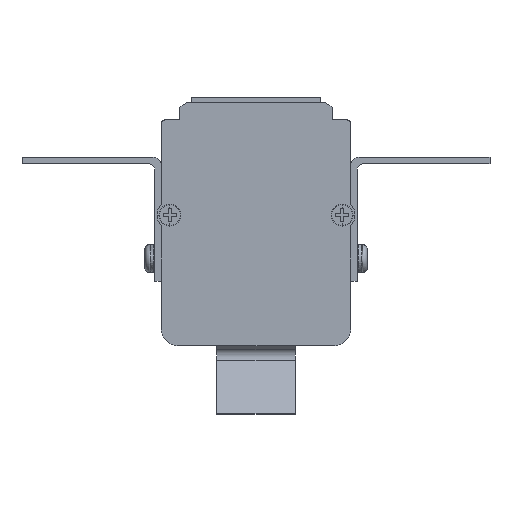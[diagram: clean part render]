
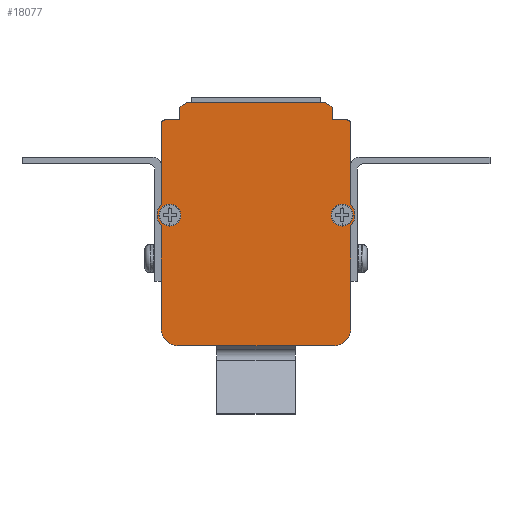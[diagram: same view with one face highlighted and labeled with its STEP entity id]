
A CAD part, front view. The second image highlights one B-rep face of the part: STEP entity #18077.
In plain terms, the highlighted planar face has unit normal (0, -1, 0).
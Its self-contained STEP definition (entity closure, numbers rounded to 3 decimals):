
#505=FACE_BOUND('',#4718,.T.);
#506=FACE_BOUND('',#4719,.T.);
#2286=CIRCLE('',#20143,2.51);
#2287=CIRCLE('',#20145,2.51);
#2290=CIRCLE('',#20149,2.51);
#2291=CIRCLE('',#20151,2.51);
#2294=CIRCLE('',#20155,1.004);
#2296=CIRCLE('',#20159,3.509);
#2298=CIRCLE('',#20163,3.952);
#2300=CIRCLE('',#20167,3.952);
#2302=CIRCLE('',#20171,3.509);
#2304=CIRCLE('',#20175,1.004);
#3299=FACE_OUTER_BOUND('',#4717,.T.);
#4717=EDGE_LOOP('',(#16632,#16633,#16634,#16635,#16636,#16637,#16638,#16639,
#16640,#16641,#16642,#16643,#16644,#16645,#16646,#16647,#16648,#16649,#16650));
#4718=EDGE_LOOP('',(#16651,#16652));
#4719=EDGE_LOOP('',(#16653,#16654));
#6009=LINE('',#31493,#7357);
#6013=LINE('',#31505,#7361);
#6017=LINE('',#31517,#7365);
#6021=LINE('',#31529,#7369);
#6025=LINE('',#31541,#7373);
#6029=LINE('',#31553,#7377);
#6032=LINE('',#31559,#7380);
#6035=LINE('',#31565,#7383);
#6038=LINE('',#31571,#7386);
#6041=LINE('',#31577,#7389);
#6044=LINE('',#31583,#7392);
#6047=LINE('',#31589,#7395);
#6050=LINE('',#31593,#7398);
#7357=VECTOR('',#25543,304.8);
#7361=VECTOR('',#25555,304.8);
#7365=VECTOR('',#25567,304.8);
#7369=VECTOR('',#25579,304.8);
#7373=VECTOR('',#25591,304.8);
#7377=VECTOR('',#25603,304.8);
#7380=VECTOR('',#25608,304.8);
#7383=VECTOR('',#25613,304.8);
#7386=VECTOR('',#25618,304.8);
#7389=VECTOR('',#25623,304.8);
#7392=VECTOR('',#25628,304.8);
#7395=VECTOR('',#25633,304.8);
#7398=VECTOR('',#25638,304.8);
#9021=VERTEX_POINT('',#31458);
#9023=VERTEX_POINT('',#31462);
#9025=VERTEX_POINT('',#31470);
#9027=VERTEX_POINT('',#31474);
#9030=VERTEX_POINT('',#31484);
#9031=VERTEX_POINT('',#31486);
#9033=VERTEX_POINT('',#31492);
#9035=VERTEX_POINT('',#31498);
#9037=VERTEX_POINT('',#31504);
#9039=VERTEX_POINT('',#31510);
#9041=VERTEX_POINT('',#31516);
#9043=VERTEX_POINT('',#31522);
#9045=VERTEX_POINT('',#31528);
#9047=VERTEX_POINT('',#31534);
#9049=VERTEX_POINT('',#31540);
#9051=VERTEX_POINT('',#31546);
#9053=VERTEX_POINT('',#31552);
#9055=VERTEX_POINT('',#31558);
#9057=VERTEX_POINT('',#31564);
#9059=VERTEX_POINT('',#31570);
#9061=VERTEX_POINT('',#31576);
#9063=VERTEX_POINT('',#31582);
#9065=VERTEX_POINT('',#31588);
#11545=EDGE_CURVE('',#9021,#9023,#2286,.T.);
#11546=EDGE_CURVE('',#9023,#9021,#2287,.T.);
#11551=EDGE_CURVE('',#9025,#9027,#2290,.T.);
#11552=EDGE_CURVE('',#9027,#9025,#2291,.T.);
#11556=EDGE_CURVE('',#9031,#9030,#2294,.T.);
#11559=EDGE_CURVE('',#9033,#9031,#6009,.T.);
#11562=EDGE_CURVE('',#9035,#9033,#2296,.T.);
#11565=EDGE_CURVE('',#9037,#9035,#6013,.T.);
#11568=EDGE_CURVE('',#9039,#9037,#2298,.T.);
#11571=EDGE_CURVE('',#9041,#9039,#6017,.T.);
#11574=EDGE_CURVE('',#9043,#9041,#2300,.T.);
#11577=EDGE_CURVE('',#9045,#9043,#6021,.T.);
#11580=EDGE_CURVE('',#9047,#9045,#2302,.T.);
#11583=EDGE_CURVE('',#9049,#9047,#6025,.T.);
#11586=EDGE_CURVE('',#9051,#9049,#2304,.T.);
#11589=EDGE_CURVE('',#9053,#9051,#6029,.T.);
#11592=EDGE_CURVE('',#9055,#9053,#6032,.T.);
#11595=EDGE_CURVE('',#9057,#9055,#6035,.T.);
#11598=EDGE_CURVE('',#9059,#9057,#6038,.T.);
#11601=EDGE_CURVE('',#9061,#9059,#6041,.T.);
#11604=EDGE_CURVE('',#9063,#9061,#6044,.T.);
#11607=EDGE_CURVE('',#9065,#9063,#6047,.T.);
#11610=EDGE_CURVE('',#9030,#9065,#6050,.T.);
#16632=ORIENTED_EDGE('',*,*,#11610,.T.);
#16633=ORIENTED_EDGE('',*,*,#11607,.T.);
#16634=ORIENTED_EDGE('',*,*,#11604,.T.);
#16635=ORIENTED_EDGE('',*,*,#11601,.T.);
#16636=ORIENTED_EDGE('',*,*,#11598,.T.);
#16637=ORIENTED_EDGE('',*,*,#11595,.T.);
#16638=ORIENTED_EDGE('',*,*,#11592,.T.);
#16639=ORIENTED_EDGE('',*,*,#11589,.T.);
#16640=ORIENTED_EDGE('',*,*,#11586,.T.);
#16641=ORIENTED_EDGE('',*,*,#11583,.T.);
#16642=ORIENTED_EDGE('',*,*,#11580,.T.);
#16643=ORIENTED_EDGE('',*,*,#11577,.T.);
#16644=ORIENTED_EDGE('',*,*,#11574,.T.);
#16645=ORIENTED_EDGE('',*,*,#11571,.T.);
#16646=ORIENTED_EDGE('',*,*,#11568,.T.);
#16647=ORIENTED_EDGE('',*,*,#11565,.T.);
#16648=ORIENTED_EDGE('',*,*,#11562,.T.);
#16649=ORIENTED_EDGE('',*,*,#11559,.T.);
#16650=ORIENTED_EDGE('',*,*,#11556,.T.);
#16651=ORIENTED_EDGE('',*,*,#11552,.T.);
#16652=ORIENTED_EDGE('',*,*,#11551,.T.);
#16653=ORIENTED_EDGE('',*,*,#11546,.T.);
#16654=ORIENTED_EDGE('',*,*,#11545,.T.);
#17138=PLANE('',#20184);
#18077=ADVANCED_FACE('',(#3299,#505,#506),#17138,.T.);
#20143=AXIS2_PLACEMENT_3D('',#31464,#25510,#25511);
#20145=AXIS2_PLACEMENT_3D('',#31466,#25514,#25515);
#20149=AXIS2_PLACEMENT_3D('',#31476,#25524,#25525);
#20151=AXIS2_PLACEMENT_3D('',#31478,#25528,#25529);
#20155=AXIS2_PLACEMENT_3D('',#31487,#25537,#25538);
#20159=AXIS2_PLACEMENT_3D('',#31499,#25549,#25550);
#20163=AXIS2_PLACEMENT_3D('',#31511,#25561,#25562);
#20167=AXIS2_PLACEMENT_3D('',#31523,#25573,#25574);
#20171=AXIS2_PLACEMENT_3D('',#31535,#25585,#25586);
#20175=AXIS2_PLACEMENT_3D('',#31547,#25597,#25598);
#20184=AXIS2_PLACEMENT_3D('',#31594,#25639,#25640);
#25510=DIRECTION('center_axis',(0.,1.,0.));
#25511=DIRECTION('ref_axis',(-1.,0.,0.));
#25514=DIRECTION('center_axis',(0.,1.,0.));
#25515=DIRECTION('ref_axis',(-1.,0.,0.));
#25524=DIRECTION('center_axis',(0.,1.,0.));
#25525=DIRECTION('ref_axis',(1.,0.,0.));
#25528=DIRECTION('center_axis',(0.,1.,0.));
#25529=DIRECTION('ref_axis',(1.,0.,0.));
#25537=DIRECTION('center_axis',(0.,-1.,0.));
#25538=DIRECTION('ref_axis',(1.,0.,0.));
#25543=DIRECTION('',(0.,0.,1.));
#25549=DIRECTION('center_axis',(0.,-1.,0.));
#25550=DIRECTION('ref_axis',(1.,0.,0.));
#25555=DIRECTION('',(0.,0.,1.));
#25561=DIRECTION('center_axis',(0.,-1.,0.));
#25562=DIRECTION('ref_axis',(1.,0.,0.));
#25567=DIRECTION('',(1.,0.,0.));
#25573=DIRECTION('center_axis',(0.,-1.,0.));
#25574=DIRECTION('ref_axis',(-1.,0.,0.));
#25579=DIRECTION('',(0.,0.,-1.));
#25585=DIRECTION('center_axis',(0.,-1.,0.));
#25586=DIRECTION('ref_axis',(-1.,0.,0.));
#25591=DIRECTION('',(0.,0.,-1.));
#25597=DIRECTION('center_axis',(0.,-1.,0.));
#25598=DIRECTION('ref_axis',(-1.,0.,0.));
#25603=DIRECTION('',(-1.,0.,0.));
#25608=DIRECTION('',(0.,0.,-1.));
#25613=DIRECTION('',(-0.827,0.,-0.562));
#25618=DIRECTION('',(-1.,0.,0.));
#25623=DIRECTION('',(-1.,0.,0.));
#25628=DIRECTION('',(-0.827,0.,0.562));
#25633=DIRECTION('',(0.,0.,1.));
#25638=DIRECTION('',(-1.,0.,0.));
#25639=DIRECTION('center_axis',(0.,-1.,0.));
#25640=DIRECTION('ref_axis',(-1.,0.,0.));
#31458=CARTESIAN_POINT('',(22.284,-65.5,-23.8));
#31462=CARTESIAN_POINT('',(17.264,-65.5,-23.8));
#31464=CARTESIAN_POINT('Origin',(19.774,-65.5,-23.8));
#31466=CARTESIAN_POINT('Origin',(19.774,-65.5,-23.8));
#31470=CARTESIAN_POINT('',(-22.284,-65.5,-23.8));
#31474=CARTESIAN_POINT('',(-17.264,-65.5,-23.8));
#31476=CARTESIAN_POINT('Origin',(-19.774,-65.5,-23.8));
#31478=CARTESIAN_POINT('Origin',(-19.774,-65.5,-23.8));
#31484=CARTESIAN_POINT('',(20.746,-65.5,-1.9));
#31486=CARTESIAN_POINT('',(21.75,-65.5,-2.904));
#31487=CARTESIAN_POINT('Origin',(20.746,-65.5,-2.904));
#31492=CARTESIAN_POINT('',(21.75,-65.5,-21.351));
#31493=CARTESIAN_POINT('',(21.75,-65.5,-21.351));
#31498=CARTESIAN_POINT('',(21.75,-65.5,-26.249));
#31499=CARTESIAN_POINT('Origin',(19.237,-65.5,-23.8));
#31504=CARTESIAN_POINT('',(21.75,-65.5,-49.848));
#31505=CARTESIAN_POINT('',(21.75,-65.5,-49.848));
#31510=CARTESIAN_POINT('',(17.798,-65.5,-53.8));
#31511=CARTESIAN_POINT('Origin',(17.798,-65.5,-49.848));
#31516=CARTESIAN_POINT('',(-17.798,-65.5,-53.8));
#31517=CARTESIAN_POINT('',(-17.798,-65.5,-53.8));
#31522=CARTESIAN_POINT('',(-21.75,-65.5,-49.848));
#31523=CARTESIAN_POINT('Origin',(-17.798,-65.5,-49.848));
#31528=CARTESIAN_POINT('',(-21.75,-65.5,-26.249));
#31529=CARTESIAN_POINT('',(-21.75,-65.5,-26.249));
#31534=CARTESIAN_POINT('',(-21.75,-65.5,-21.351));
#31535=CARTESIAN_POINT('Origin',(-19.237,-65.5,-23.8));
#31540=CARTESIAN_POINT('',(-21.75,-65.5,-2.904));
#31541=CARTESIAN_POINT('',(-21.75,-65.5,-2.904));
#31546=CARTESIAN_POINT('',(-20.746,-65.5,-1.9));
#31547=CARTESIAN_POINT('Origin',(-20.746,-65.5,-2.904));
#31552=CARTESIAN_POINT('',(-17.479,-65.5,-1.9));
#31553=CARTESIAN_POINT('',(-17.479,-65.5,-1.9));
#31558=CARTESIAN_POINT('',(-17.479,-65.5,0.995));
#31559=CARTESIAN_POINT('',(-17.479,-65.5,0.995));
#31564=CARTESIAN_POINT('',(-16.,-65.5,2.));
#31565=CARTESIAN_POINT('',(-16.,-65.5,2.));
#31570=CARTESIAN_POINT('',(0.,-65.5,2.));
#31571=CARTESIAN_POINT('',(0.,-65.5,2.));
#31576=CARTESIAN_POINT('',(16.,-65.5,2.));
#31577=CARTESIAN_POINT('',(16.,-65.5,2.));
#31582=CARTESIAN_POINT('',(17.479,-65.5,0.995));
#31583=CARTESIAN_POINT('',(17.479,-65.5,0.995));
#31588=CARTESIAN_POINT('',(17.479,-65.5,-1.9));
#31589=CARTESIAN_POINT('',(17.479,-65.5,-1.9));
#31593=CARTESIAN_POINT('',(20.746,-65.5,-1.9));
#31594=CARTESIAN_POINT('Origin',(17.65,-65.5,-1.9));
